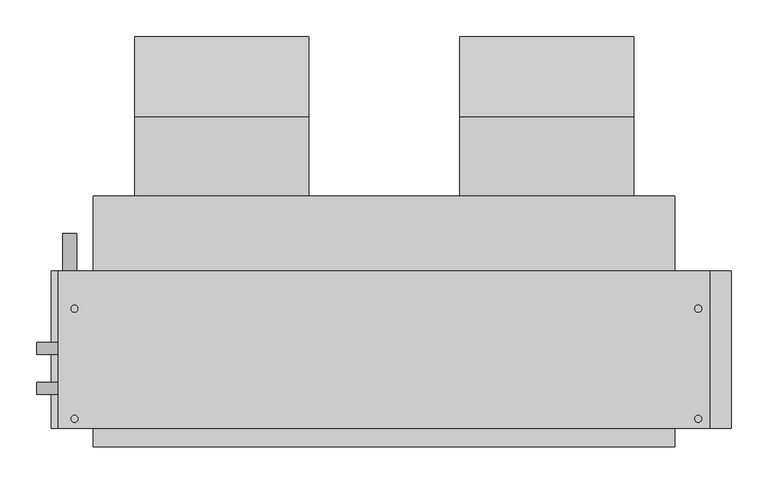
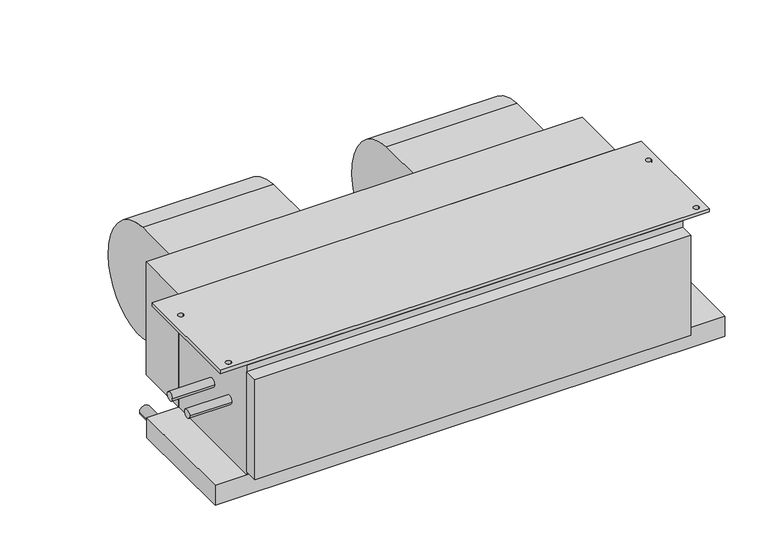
"""IFC4 building model written with IfcOpenShell, lengths in millimetres: proxy geometry, Concealed_Horizontal_Fan_Coil_Unit_-_42CAA_-_CARRIER_-_2-Pipe_Cool-EHeat_LH_2022 : Size 06 - 277v/60Hz/1Ph - 4 Row 6.0kW."""

from ifc_helpers import new_model, si_unit, point, frame, frame_2d, origin, place, context, project, spatial, polyline, circle_curve, trimmed, segment, composite_curve, outline, extrude, source, transform, mapped, element, save


def mechanical_equipment_f04c1c21(model_context):
    return source(origin(), model_context, "Body", "SweptSolid", [
        extrude(outline(composite_curve([segment(trimmed(circle_curve(frame_2d((68.401169, -136.0299844)), 117.3559541), [point((77.7875, -19.05))], [point((185.7375, -138.176))], False, "CARTESIAN"), True, "CONTINUOUS"), segment(trimmed(circle_curve(frame_2d((90.0022663, -136.4250563)), 95.7512443), [point((185.7375, -138.176))], [point((77.7875, -231.394))], False, "CARTESIAN"), True, "CONTINUOUS"), segment(trimmed(circle_curve(frame_2d((89.9711869, -136.6666968)), 95.5076133), [point((77.7875, -231.394))], [point((-5.5245, -138.176))], False, "CARTESIAN"), True, "CONTINUOUS"), segment(trimmed(circle_curve(frame_2d((-24.6059828, -138.4775816)), 19.0838659), [point((-5.5245, -138.176))], [point((-17.7963373, -120.65))], True, "CARTESIAN"), True, "CONTINUOUS"), segment(polyline([(-17.7963373, -120.65), (-30.1625, -120.65), (-30.1625, -19.05), (77.7875, -19.05)]), True, "CONTINUOUS")], self_intersect=False)), frame((254.8255, 0.0, 0.0), z_axis=(1.0, 0.0, 0.0), x_axis=(0.0, 1.0, 0.0)), (0.0, 0.0, 1.0), 235.712),
        extrude(outline(composite_curve([segment(trimmed(circle_curve(frame_2d((68.401169, -136.0299844)), 117.3559541), [point((77.7875, -19.05))], [point((185.7375, -138.176))], False, "CARTESIAN"), True, "CONTINUOUS"), segment(trimmed(circle_curve(frame_2d((90.0022663, -136.4250563)), 95.7512443), [point((185.7375, -138.176))], [point((77.7875, -231.394))], False, "CARTESIAN"), True, "CONTINUOUS"), segment(trimmed(circle_curve(frame_2d((89.9711869, -136.6666968)), 95.5076133), [point((77.7875, -231.394))], [point((-5.5245, -138.176))], False, "CARTESIAN"), True, "CONTINUOUS"), segment(trimmed(circle_curve(frame_2d((-24.6059828, -138.4775816)), 19.0838659), [point((-5.5245, -138.176))], [point((-17.7963373, -120.65))], True, "CARTESIAN"), True, "CONTINUOUS"), segment(polyline([(-17.7963373, -120.65), (-30.1625, -120.65), (-30.1625, -19.05), (77.7875, -19.05)]), True, "CONTINUOUS")], self_intersect=False)), frame((-184.912, 0.0, 0.0), z_axis=(1.0, 0.0, 0.0), x_axis=(0.0, 1.0, 0.0)), (0.0, 0.0, 1.0), 235.712),
        extrude(outline(polyline([(593.725, -131.7625), (593.725, -344.4875), (-288.925, -344.4875), (-288.925, -131.7625), (593.725, -131.7625)]), holes=[composite_curve([segment(trimmed(circle_curve(frame_2d((-266.7, -182.5625)), 4.7625), [point((-271.4625, -182.5625))], [point((-261.9375, -182.5625))], True, "CARTESIAN"), True, "CONTINUOUS"), segment(trimmed(circle_curve(frame_2d((-266.7, -182.5625)), 4.7625), [point((-261.9375, -182.5625))], [point((-271.4625, -182.5625))], True, "CARTESIAN"), True, "CONTINUOUS")], self_intersect=False), composite_curve([segment(trimmed(circle_curve(frame_2d((-266.7, -331.7875)), 4.7625), [point((-271.4625, -331.7875))], [point((-261.9375, -331.7875))], True, "CARTESIAN"), True, "CONTINUOUS"), segment(trimmed(circle_curve(frame_2d((-266.7, -331.7875)), 4.7625), [point((-261.9375, -331.7875))], [point((-271.4625, -331.7875))], True, "CARTESIAN"), True, "CONTINUOUS")], self_intersect=False), composite_curve([segment(trimmed(circle_curve(frame_2d((577.85, -182.5625)), 4.7625), [point((573.0875, -182.5625))], [point((582.6125, -182.5625))], True, "CARTESIAN"), True, "CONTINUOUS"), segment(trimmed(circle_curve(frame_2d((577.85, -182.5625)), 4.7625), [point((582.6125, -182.5625))], [point((573.0875, -182.5625))], True, "CARTESIAN"), True, "CONTINUOUS")], self_intersect=False), composite_curve([segment(trimmed(circle_curve(frame_2d((577.85, -331.7875)), 4.7625), [point((573.0875, -331.7875))], [point((582.6125, -331.7875))], True, "CARTESIAN"), True, "CONTINUOUS"), segment(trimmed(circle_curve(frame_2d((577.85, -331.7875)), 4.7625), [point((582.6125, -331.7875))], [point((573.0875, -331.7875))], True, "CARTESIAN"), True, "CONTINUOUS")], self_intersect=False)]), frame((0.0, 0.0, -6.35), z_axis=(0.0, 0.0, 1.0), x_axis=(1.0, 0.0, 0.0)), (0.0, 0.0, 1.0), 6.35),
        extrude(outline(polyline([(-241.3, -30.1625), (546.1, -30.1625), (546.1, -131.7625), (-241.3, -131.7625), (-241.3, -30.1625)])), frame((0.0, 0.0, -215.9), z_axis=(0.0, 0.0, 1.0), x_axis=(1.0, 0.0, 0.0)), (0.0, 0.0, 1.0), 215.9),
        extrude(outline(composite_curve([segment(trimmed(circle_curve(frame_2d((-241.3, -273.05)), 9.525), [point((-241.3, -282.575))], [point((-241.3, -263.525))], False, "CARTESIAN"), True, "CONTINUOUS"), segment(trimmed(circle_curve(frame_2d((-241.3, -273.05)), 9.525), [point((-241.3, -263.525))], [point((-241.3, -282.575))], False, "CARTESIAN"), True, "CONTINUOUS")], self_intersect=False)), frame((0.0, -131.7625, 0.0), z_axis=(0.0, 1.0, 0.0), x_axis=(0.0, 0.0, 1.0)), (0.0, 0.0, 1.0), 50.8),
        extrude(outline(polyline([(546.1, -369.8875), (-241.3, -369.8875), (-241.3, -344.4875), (546.1, -344.4875), (546.1, -369.8875)])), frame((0.0, 0.0, -209.55), z_axis=(0.0, 0.0, 1.0), x_axis=(1.0, 0.0, 0.0)), (0.0, 0.0, 1.0), 190.5),
        extrude(outline(polyline([(622.3, -131.7625), (622.3, -344.4875), (-298.45, -344.4875), (-298.45, -131.7625), (622.3, -131.7625)])), frame((0.0, 0.0, -254.0), z_axis=(0.0, 0.0, 1.0), x_axis=(1.0, 0.0, 0.0)), (0.0, 0.0, 1.0), 38.1),
        extrude(outline(composite_curve([segment(trimmed(circle_curve(frame_2d((-290.5125, -104.775)), 7.9375), [point((-282.575, -104.775))], [point((-298.45, -104.775))], False, "CARTESIAN"), True, "CONTINUOUS"), segment(trimmed(circle_curve(frame_2d((-290.5125, -104.775)), 7.9375), [point((-298.45, -104.775))], [point((-282.575, -104.775))], False, "CARTESIAN"), True, "CONTINUOUS")], self_intersect=False)), frame((-317.5, 0.0, 0.0), z_axis=(1.0, 0.0, 0.0), x_axis=(0.0, 1.0, 0.0)), (0.0, 0.0, 1.0), 76.2),
        extrude(outline(composite_curve([segment(trimmed(circle_curve(frame_2d((-236.5375, -104.775)), 7.9375), [point((-228.6, -104.775))], [point((-244.475, -104.775))], False, "CARTESIAN"), True, "CONTINUOUS"), segment(trimmed(circle_curve(frame_2d((-236.5375, -104.775)), 7.9375), [point((-244.475, -104.775))], [point((-228.6, -104.775))], False, "CARTESIAN"), True, "CONTINUOUS")], self_intersect=False)), frame((-317.5, 0.0, 0.0), z_axis=(1.0, 0.0, 0.0), x_axis=(0.0, 1.0, 0.0)), (0.0, 0.0, 1.0), 76.2),
        extrude(outline(polyline([(546.1, -344.4875), (-241.3, -344.4875), (-241.3, -131.7625), (546.1, -131.7625), (546.1, -344.4875)])), frame((0.0, 0.0, -215.9), z_axis=(0.0, 0.0, 1.0), x_axis=(1.0, 0.0, 0.0)), (0.0, 0.0, 1.0), 209.55),
    ])


if __name__ == "__main__":
    model = new_model("IFC4")
    model_context = context("Model", 3, world=origin())
    ifc_project = project(units=[si_unit("LENGTHUNIT", "METRE", prefix="MILLI")], contexts=[model_context])
    site = spatial("IfcSite", under=ifc_project)
    building = spatial("IfcBuilding", under=site)
    placement = place(None, origin())
    mechanical_equipment_shape = mechanical_equipment_f04c1c21(model_context)
    element("IfcBuildingElementProxy", 1, Name="Concealed_Horizontal_Fan_Coil_Unit_-_42CAA_-_CARRIER_-_2-Pipe_Cool-EHeat_LH_2022 : Size 06 - 277v/60Hz/1Ph - 4 Row 6.0kW", ObjectType="Concealed_Horizontal_Fan_Coil_Unit_-_42CAA_-_CARRIER_-_2-Pipe_Cool-EHeat_LH_2022 : Size 06 - 277v/60Hz/1Ph - 4 Row 6.0kW", at=placement, inside=building, context=model_context, shape_type="MappedRepresentation", body=[
        mapped(mechanical_equipment_shape, transform((0.0, 0.0, 0.0), x_axis=(1.0, 0.0, 0.0), y_axis=(0.0, 1.0, 0.0), z_axis=(0.0, 0.0, 1.0))),
    ])
    save(model, "model.ifc")
